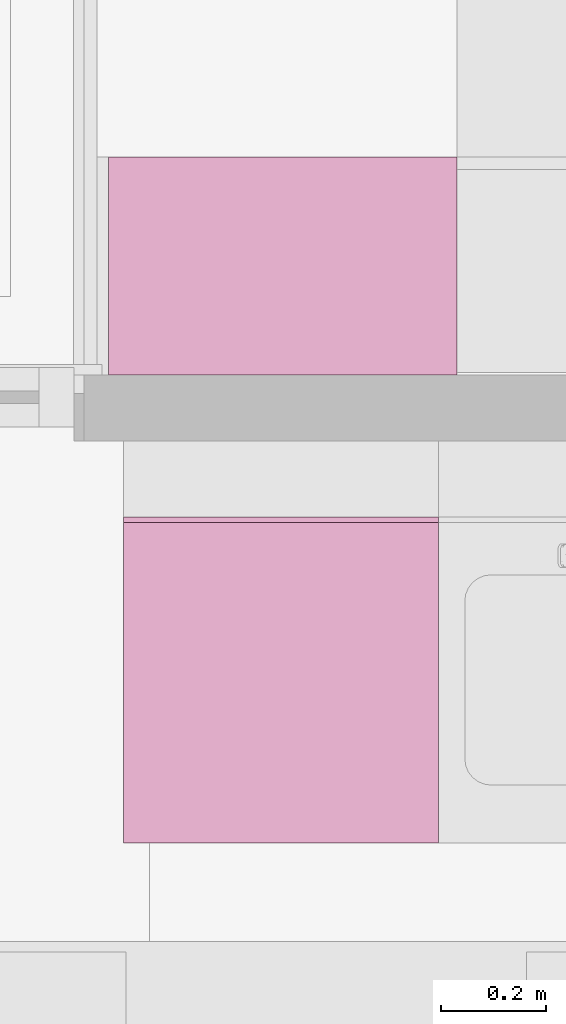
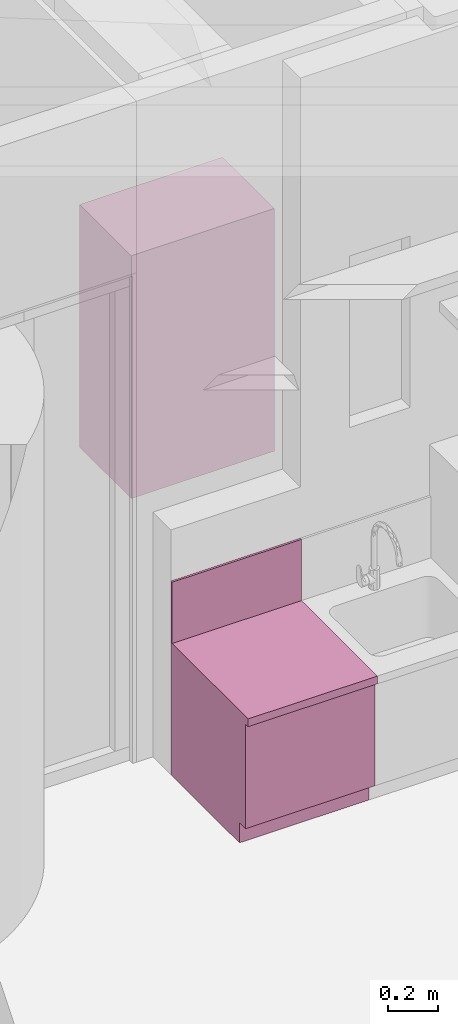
# One storey, part 83 of 128: 2 furnishings.
"""IFC2X3 building model written with IfcOpenShell, lengths in millimetres."""

from ifc_helpers import new_model, entity, si_unit, converted_unit, derived_unit, direction, frame, frame_2d, origin, origin_2d_with_axis, place, context, subcontext, project, spatial, polyline, rectangle, outline, extrude, source, transform, mapped, material, type_object, type_shapes, element, save


model = new_model("IFC2X3")

# Units and contexts
model_context = context("Model", 3, precision=0.01, world=origin(), true_north=direction((6.123031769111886e-17, 1.0)))
body_context = subcontext(model_context, "Body", "Model", "MODEL_VIEW")
ifc_project = project(units=[si_unit("LENGTHUNIT", "METRE", prefix="MILLI"), si_unit("AREAUNIT", "SQUARE_METRE"), si_unit("VOLUMEUNIT", "CUBIC_METRE"), converted_unit("PLANEANGLEUNIT", "DEGREE", entity("IfcRatioMeasure", 0.017453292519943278), si_unit("PLANEANGLEUNIT", "RADIAN"), dimensions=[0, 0, 0, 0, 0, 0, 0]), si_unit("MASSUNIT", "GRAM", prefix="KILO"), derived_unit("MASSDENSITYUNIT", [(si_unit("MASSUNIT", "GRAM", prefix="KILO"), 1), (si_unit("LENGTHUNIT", "METRE"), -3)]), derived_unit("IONCONCENTRATIONUNIT", [(si_unit("MASSUNIT", "GRAM", prefix="KILO"), 1), (si_unit("LENGTHUNIT", "METRE"), -3)]), derived_unit("MOMENTOFINERTIAUNIT", [(si_unit("LENGTHUNIT", "METRE"), 4)]), si_unit("TIMEUNIT", "SECOND"), si_unit("FREQUENCYUNIT", "HERTZ"), si_unit("THERMODYNAMICTEMPERATUREUNIT", "DEGREE_CELSIUS"), derived_unit("THERMALTRANSMITTANCEUNIT", [(si_unit("MASSUNIT", "GRAM", prefix="KILO"), 1), (si_unit("THERMODYNAMICTEMPERATUREUNIT", "KELVIN"), -1), (si_unit("TIMEUNIT", "SECOND"), -3)]), derived_unit("THERMALCONDUCTANCEUNIT", [(si_unit("MASSUNIT", "GRAM", prefix="KILO"), 1), (si_unit("THERMODYNAMICTEMPERATUREUNIT", "KELVIN"), -1), (si_unit("TIMEUNIT", "SECOND"), -3), (si_unit("LENGTHUNIT", "METRE"), 1)]), derived_unit("VOLUMETRICFLOWRATEUNIT", [(si_unit("LENGTHUNIT", "METRE"), 3), (si_unit("TIMEUNIT", "SECOND"), -1)]), derived_unit("MASSFLOWRATEUNIT", [(si_unit("MASSUNIT", "GRAM", prefix="KILO"), 1), (si_unit("TIMEUNIT", "SECOND"), -1)]), derived_unit("ROTATIONALFREQUENCYUNIT", [(si_unit("TIMEUNIT", "SECOND"), -1)]), si_unit("ELECTRICCURRENTUNIT", "AMPERE"), si_unit("ELECTRICVOLTAGEUNIT", "VOLT"), si_unit("POWERUNIT", "WATT"), si_unit("FORCEUNIT", "NEWTON", prefix="KILO"), si_unit("ILLUMINANCEUNIT", "LUX"), si_unit("LUMINOUSFLUXUNIT", "LUMEN"), si_unit("LUMINOUSINTENSITYUNIT", "CANDELA"), derived_unit("USERDEFINED", [(si_unit("MASSUNIT", "GRAM", prefix="KILO"), -1), (si_unit("LENGTHUNIT", "METRE"), -2), (si_unit("TIMEUNIT", "SECOND"), 3), (si_unit("LUMINOUSFLUXUNIT", "LUMEN"), 1)]), derived_unit("USERDEFINED", [(si_unit("MASSUNIT", "GRAM", prefix="KILO"), 1), (si_unit("TIMEUNIT", "SECOND"), -3), (si_unit("LENGTHUNIT", "METRE"), 3), (si_unit("ELECTRICCURRENTUNIT", "AMPERE"), -2)]), derived_unit("SOUNDPOWERUNIT", [(si_unit("MASSUNIT", "GRAM", prefix="KILO"), 1), (si_unit("TIMEUNIT", "SECOND"), -3), (si_unit("LENGTHUNIT", "METRE"), 2)]), derived_unit("SOUNDPRESSUREUNIT", [(si_unit("MASSUNIT", "GRAM", prefix="KILO"), 1), (si_unit("LENGTHUNIT", "METRE"), -1), (si_unit("TIMEUNIT", "SECOND"), -2)]), derived_unit("LINEARVELOCITYUNIT", [(si_unit("LENGTHUNIT", "METRE"), 1), (si_unit("TIMEUNIT", "SECOND"), -1)]), si_unit("PRESSUREUNIT", "PASCAL"), derived_unit("USERDEFINED", [(si_unit("MASSUNIT", "GRAM", prefix="KILO"), 1), (si_unit("LENGTHUNIT", "METRE"), -2), (si_unit("TIMEUNIT", "SECOND"), -2)]), derived_unit("LINEARFORCEUNIT", [(si_unit("MASSUNIT", "GRAM", prefix="KILO"), 1), (si_unit("TIMEUNIT", "SECOND"), -2)]), derived_unit("PLANARFORCEUNIT", [(si_unit("MASSUNIT", "GRAM", prefix="KILO"), 1), (si_unit("LENGTHUNIT", "METRE"), -1), (si_unit("TIMEUNIT", "SECOND"), -2)]), derived_unit("SPECIFICHEATCAPACITYUNIT", [(si_unit("THERMODYNAMICTEMPERATUREUNIT", "KELVIN"), -1), (si_unit("LENGTHUNIT", "METRE"), 2), (si_unit("TIMEUNIT", "SECOND"), -2)]), derived_unit("HEATINGVALUEUNIT", [(si_unit("LENGTHUNIT", "METRE"), 2), (si_unit("TIMEUNIT", "SECOND"), -2)]), derived_unit("VAPORPERMEABILITYUNIT", [(si_unit("LENGTHUNIT", "METRE"), -1), (si_unit("TIMEUNIT", "SECOND"), 1)]), derived_unit("DYNAMICVISCOSITYUNIT", [(si_unit("MASSUNIT", "GRAM", prefix="KILO"), 1), (si_unit("TIMEUNIT", "SECOND"), -1), (si_unit("LENGTHUNIT", "METRE"), -1)]), derived_unit("THERMALEXPANSIONCOEFFICIENTUNIT", [(si_unit("THERMODYNAMICTEMPERATUREUNIT", "KELVIN"), -1)]), derived_unit("MODULUSOFELASTICITYUNIT", [(si_unit("MASSUNIT", "GRAM", prefix="KILO"), 1), (si_unit("LENGTHUNIT", "METRE"), -1), (si_unit("TIMEUNIT", "SECOND"), -2)]), derived_unit("ISOTHERMALMOISTURECAPACITYUNIT", [(si_unit("LENGTHUNIT", "METRE"), 3), (si_unit("MASSUNIT", "GRAM", prefix="KILO"), -1)]), derived_unit("MOISTUREDIFFUSIVITYUNIT", [(si_unit("TIMEUNIT", "SECOND"), -1), (si_unit("LENGTHUNIT", "METRE"), 2)])], contexts=[model_context])

# Site, building, storey, space
site_placement = place(None, frame((0.0, 300.0, 0.0)))
site = spatial("IfcSite", under=ifc_project, at=site_placement, Name="<Kadastrale nummers>", CompositionType="ELEMENT")
building_placement = place(site_placement, origin())
building = spatial("IfcBuilding", under=site, at=building_placement, CompositionType="ELEMENT")
storey_placement = place(building_placement, frame((0.0, 0.0, 3560.0000331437)))
storey = spatial("IfcBuildingStorey", under=building, at=storey_placement, Name="01 eerste verdieping", CompositionType="ELEMENT", Elevation=3560.0000331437)
space_1_placement = place(storey_placement, origin())
space_1 = spatial("IfcSpace", under=storey, at=space_1_placement, Name="1.23a", CompositionType="ELEMENT", InteriorOrExteriorSpace="INTERNAL")

# Furnishing
ifc_material_1 = material(Name="ISR_HPL Kleur hout")
furniture_type_1 = type_object("IfcFurnitureType", Name="00_DAT Vaste inrichting Boven Keukenkasten:Bovenkast Gaderobe B643 Hoog", material=ifc_material_1)
shared_shape_1 = source(origin(), body_context, "Body", "SweptSolid", [
    extrude(rectangle(XDim=663.0000000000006, YDim=415.0, at=origin_2d_with_axis()), frame((331.5000000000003, -207.5, 1200.0)), (0.0, 0.0, 1.0), 1189.9999999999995),
])
type_shapes(furniture_type_1, [shared_shape_1])
furnishing_1_placement = place(space_1_placement, frame((40700.0, 9434.997246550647, 90.00000187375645), z_axis=(0.0, 0.0, 1.0), x_axis=(-1.0, 0.0, 0.0)))
element("IfcFurnishingElement", 1, at=furnishing_1_placement, inside=space_1, type_object=furniture_type_1, material=ifc_material_1, Name="00_DAT Vaste inrichting Boven Keukenkasten:Bovenkast Gaderobe B643 Hoog", ObjectType="00_DAT Vaste inrichting Boven Keukenkasten:Bovenkast Gaderobe B643 Hoog", context=body_context, shape_type="MappedRepresentation", body=[
    mapped(shared_shape_1, transform((0.0, 0.0, 0.0), scale=1.0)),
])

# Space
space_2_placement = place(storey_placement, origin())
space_2 = spatial("IfcSpace", under=storey, at=space_2_placement, Name="1.24", CompositionType="ELEMENT", InteriorOrExteriorSpace="INTERNAL")

# Furnishing
ifc_material_2 = material(Name="ISR_RAL 9010")
furniture_type_2 = type_object("IfcFurnitureType", Name="00_DAT Vaste inrichting Keukenkasten:Kast zonder Bovenkast D600 H650", material=ifc_material_2)
shared_shape_2 = source(origin(), body_context, "Body", "SweptSolid", [
    extrude(rectangle(XDim=9.999999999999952, YDim=600.0000000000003, at=frame_2d((4.440892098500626e-16, 0.0), x_axis=(1.0, 0.0))), frame((300.0, 5.0, 650.0), z_axis=(0.0, 0.0, 1.0), x_axis=(0.0, -1.0, 0.0)), (0.0, 0.0, 1.0), 300.00000000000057),
    extrude(outline(polyline([(-340.5, 107.50000000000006), (-340.5, -442.4999999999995), (309.5, -442.4999999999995), (309.5, 177.49999999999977), (271.5, 177.49999999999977), (271.5, 157.49999999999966), (-240.5, 157.49999999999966), (-240.5, 107.50000000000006), (-340.5, 107.50000000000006)])), frame((0.0, 442.4999999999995, 340.5), z_axis=(-1.0, 0.0, 0.0), x_axis=(0.0, 0.0, 1.0)), (0.0, 0.0, -1.0), 600.0000000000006),
])
type_shapes(furniture_type_2, [shared_shape_2])
furnishing_2_placement = place(space_2_placement, frame((40665.0, 9164.998623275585, 90.00000187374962), z_axis=(0.0, 0.0, 1.0), x_axis=(-1.0, 0.0, 0.0)))
element("IfcFurnishingElement", 2, at=furnishing_2_placement, inside=space_2, type_object=furniture_type_2, material=ifc_material_2, Name="00_DAT Vaste inrichting Keukenkasten:Kast zonder Bovenkast D600 H650", ObjectType="00_DAT Vaste inrichting Keukenkasten:Kast zonder Bovenkast D600 H650", context=body_context, shape_type="MappedRepresentation", body=[
    mapped(shared_shape_2, transform((0.0, 0.0, 0.0), scale=1.0)),
])

save(model, "model.ifc")
